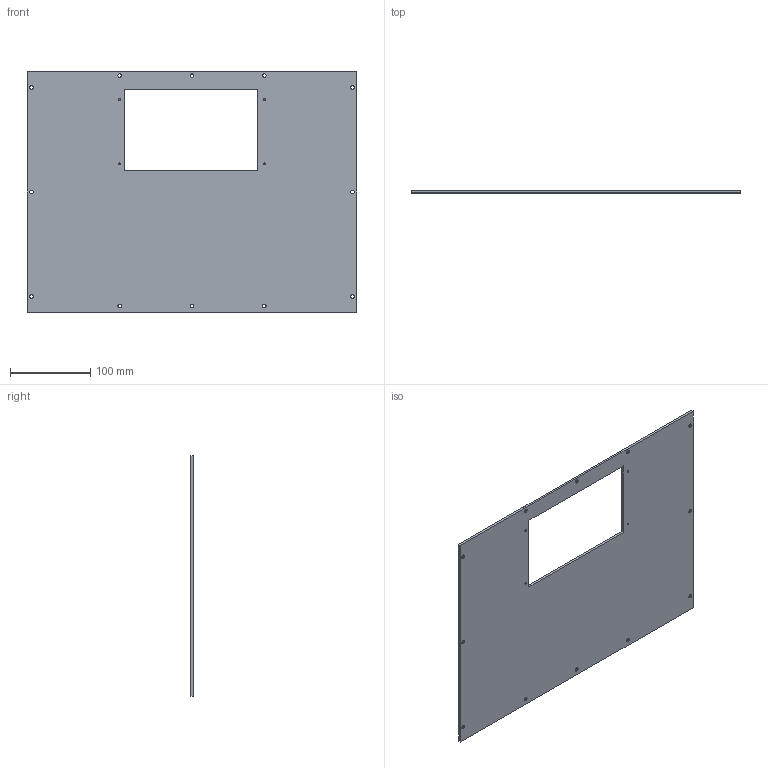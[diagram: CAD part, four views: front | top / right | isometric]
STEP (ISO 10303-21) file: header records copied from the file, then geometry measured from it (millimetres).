
FILE_DESCRIPTION (( 'STEP AP203' ), '1' );
FILE_NAME ('TOP.STEP', '2019-06-17T20:50:39', ( '' ), ( '' ), 'SwSTEP 2.0', 'SolidWorks 2018', '' );
FILE_SCHEMA (( 'CONFIG_CONTROL_DESIGN' ));
Length unit declared in the file: millimetre
Products named in the file (1): TOP
Bounding box: 410 x 3 x 300 mm (x, y, z)
Volume: 317233.7 mm3; surface area: 218269.7 mm2
Topology: 1 solids, 1 shells, 74 faces, 184 edges, 108 vertices
Faces by surface type: cylinder 32, cone 32, plane 10
Entity records: 2273 total; most frequent: DIRECTION 414, CARTESIAN_POINT 359, ORIENTED_EDGE 352, EDGE_CURVE 176, AXIS2_PLACEMENT_3D 163, VERTEX_POINT 108, EDGE_LOOP 104, LINE 88
